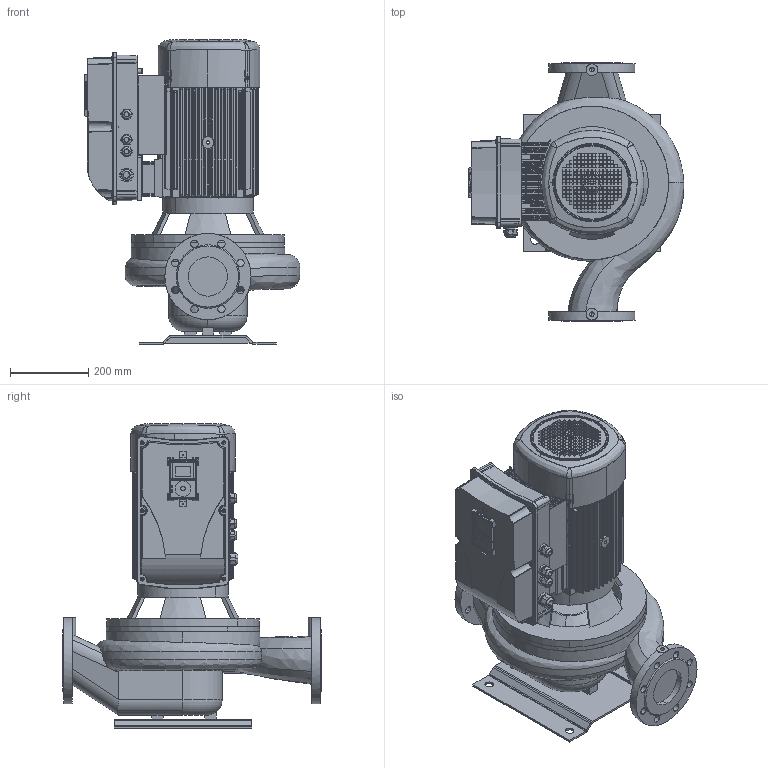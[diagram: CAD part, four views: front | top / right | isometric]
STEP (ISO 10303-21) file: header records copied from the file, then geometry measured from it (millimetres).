
FILE_DESCRIPTION(('STEP AP214'),'1');
FILE_NAME('export.stp','2018-06-04T07:40:33',(' '),(' '),'Spatial InterOp 3D',' ',' ');
FILE_SCHEMA(('AUTOMOTIVE_DESIGN { 1 0 10303 214 1 1 1 1 }'));
Length unit declared in the file: millimetre
Products named in the file (30): W_L100S475VS; V_EKF31OKN132133; V_TLL100SAL1202; V_PPL100S; P100496; P100495; P100342; MS3_Vac20CP_KP134; P101415; P101409; R200882; G23890VA; P101462; Piirilevyn_pala; A2004-2-4-LP-N-R; P101414; Vacon_Display; CAD-3D-VACON-M100-Display.sldasm; Vacon_display_pla; Vacon_display_scr; R201240; DIN_7985-M5x10; M20_tiivisteholkk; M25_tiivisteholkk; G43699; P101416; DIN_965-M5x16; DIN_7985-M5x20; DIN_7985-M4x16; DIN_7985-M5x60
Assembly tree (48 placements, depth 4):
  W_L100S475VS
    V_EKF31OKN132133
    V_TLL100SAL1202
    V_PPL100S
    P100496
      P100495  x2
      P100342
    MS3_Vac20CP_KP134
      P101415
      P101409
      R200882
      G23890VA
      P101462
        Piirilevyn_pala
        A2004-2-4-LP-N-R  x2
      P101414
      Vacon_Display
        CAD-3D-VACON-M100-Display.sldasm
        Vacon_display_pla
        Vacon_display_scr
      R201240
      DIN_7985-M5x10  x6
      M20_tiivisteholkk  x3
      M25_tiivisteholkk
      G43699  x3
      P101416
      DIN_965-M5x16  x4
      DIN_7985-M5x20  x2
      DIN_7985-M4x16  x2
      DIN_7985-M5x60  x4
Bounding box: 551.25 x 660 x 777.5 mm (x, y, z)
Volume: 31320139.1 mm3; surface area: 4613685.9 mm2
Topology: 42 solids, 1516 shells, 5659 faces, 19354 edges, 15243 vertices
Faces by surface type: plane 2181, bspline 1673, cylinder 1221, cone 324, torus 207, sphere 53
Full cylindrical faces by diameter (mm): 5 x4, 10 x4, 35.5 x1, 69 x1, 80 x1, 214 x1, 220 x1, 226 x1
Entity records: 271783 total; most frequent: CARTESIAN_POINT 104276, ORIENTED_EDGE 27973, DIRECTION 18623, EDGE_CURVE 17860, VERTEX_POINT 14359, B_SPLINE_CURVE_WITH_KNOTS 7649, AXIS2_PLACEMENT_3D 6328, LINE 5967
